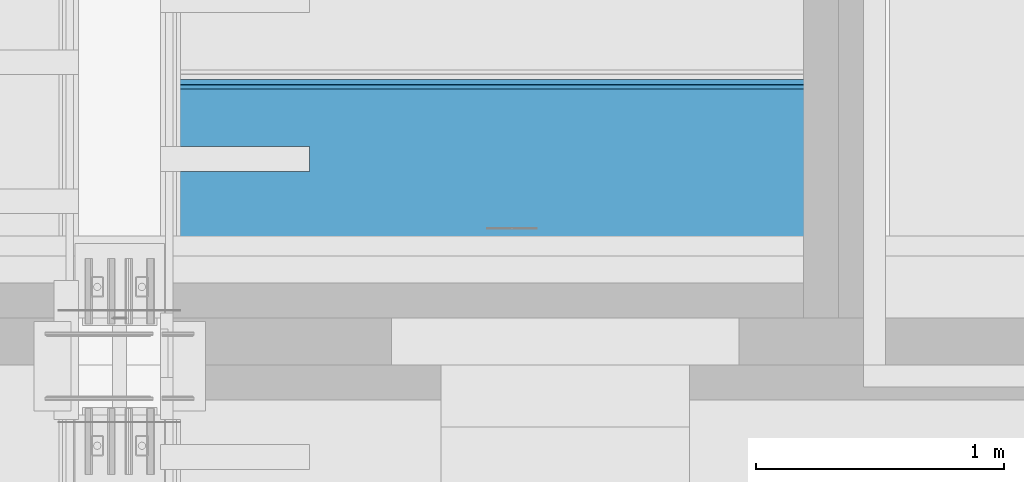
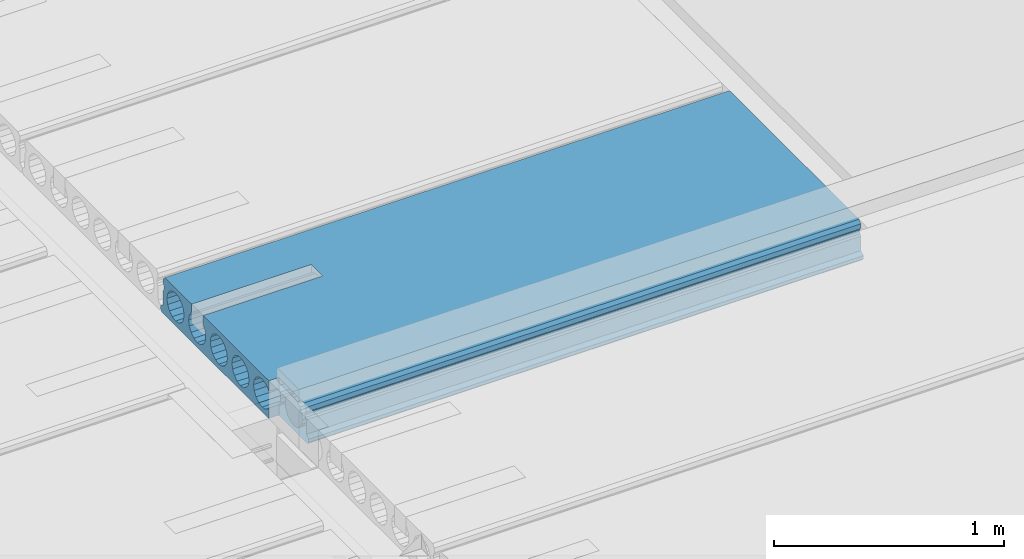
# One storey, part 128 of 230: 1 beam.
"""IFC4X3_ADD2 building model written with IfcOpenShell, lengths in millimetres."""

from ifc_helpers import new_model, si_unit, direction, origin_with_axes, place, context, subcontext, project, spatial, polygons, element, save


model = new_model("IFC4X3_ADD2")

# Units and contexts
model_context = context("Model", 3, precision=1e-05, world=origin_with_axes(), true_north=direction((0.0, 1.0)))
body_context = subcontext(model_context, "Body", "Model", "MODEL_VIEW")
ifc_project = project(units=[si_unit("LENGTHUNIT", "METRE", prefix="MILLI"), si_unit("AREAUNIT", "SQUARE_METRE"), si_unit("VOLUMEUNIT", "CUBIC_METRE"), si_unit("PLANEANGLEUNIT", "RADIAN"), si_unit("TIMEUNIT", "SECOND"), si_unit("MASSUNIT", "GRAM")], contexts=[model_context])

# Site, building, storey
site_placement = place(None, origin_with_axes())
site = spatial("IfcSite", under=ifc_project, at=site_placement, Name="Site", CompositionType="ELEMENT")
building_placement = place(site_placement, origin_with_axes())
building = spatial("IfcBuilding", under=site, at=building_placement, Name="IFC Building Story")
storey_placement = place(building_placement, origin_with_axes())
storey = spatial("IfcBuildingStorey", under=building, at=storey_placement, Name="ETAGE 00 (0)", Elevation=0.0)

# Beam
beam_placement = place(storey_placement, origin_with_axes())
element("IfcBeam", 1, at=beam_placement, inside=storey, Name="HOLLOWCORE SLAB", ObjectType="EB_SP200", context=body_context, shape_type="Tessellation", body=[
    polygons([(40131.189, 18590.0, 4199.9999909), (40131.189, 18590.0, 4153.133443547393), (40131.189, 18589.3205448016, 4152.679446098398), (40131.189, 18573.17097482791, 4128.509906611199), (40131.189, 18567.5, 4099.9999909), (40131.189, 18573.17097482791, 4071.490075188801), (40131.189, 18589.32054480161, 4047.320535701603), (40131.189, 18613.4900842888, 4031.17096572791), (40131.189, 18642.0, 4025.499990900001), (40131.189, 18670.5099157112, 4031.17096572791), (40131.189, 18694.6794551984, 4047.320535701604), (40131.189, 18710.82902517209, 4071.490075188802), (40131.189, 18716.5, 4099.9999909), (40131.189, 18710.82902517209, 4128.5099066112), (40131.189, 18694.6794551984, 4152.679446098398), (40131.189, 18690.0, 4155.806158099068), (40131.189, 18690.0, 4199.9999909), (40131.189, 18922.0, 4199.9999909), (40131.189, 18937.28870383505, 4185.002769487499), (40131.189, 18937.77001953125, 4159.9999909), (40131.189, 18930.58136358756, 4151.036789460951), (40131.189, 18928.16006998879, 4139.805000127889), (40131.189, 18931.01737852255, 4128.676139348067), (40131.189, 18938.54998779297, 4119.9999909), (40131.189, 18940.0, 4044.999990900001), (40131.189, 18960.0, 4029.9999909), (40131.189, 18960.0, 4012.9999909), (40131.189, 18949.0, 3999.9999909), (40131.189, 18020.0, 3999.9999909), (40131.189, 18020.0, 4055.283293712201), (40131.189, 18025.32054480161, 4047.320535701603), (40131.189, 18049.4900842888, 4031.17096572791), (40131.189, 18078.0, 4025.499990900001), (40131.189, 18106.5099157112, 4031.17096572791), (40131.189, 18130.6794551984, 4047.320535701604), (40131.189, 18146.82902517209, 4071.490075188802), (40131.189, 18152.5, 4099.9999909), (40131.189, 18146.82902517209, 4128.5099066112), (40131.189, 18130.6794551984, 4152.679446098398), (40131.189, 18106.5099157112, 4168.829016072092), (40131.189, 18078.0, 4174.4999909), (40131.189, 18049.4900842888, 4168.829016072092), (40131.189, 18025.32054480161, 4152.679446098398), (40131.189, 18020.0, 4144.7166880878), (40131.189, 18020.0, 4199.9999909), (40131.189, 18882.6794551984, 4152.679446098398), (40131.189, 18858.5099157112, 4168.829016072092), (40131.189, 18830.0, 4174.4999909), (40131.189, 18801.4900842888, 4168.829016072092), (40131.189, 18777.3205448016, 4152.679446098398), (40131.189, 18761.17097482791, 4128.509906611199), (40131.189, 18755.5, 4099.9999909), (40131.189, 18761.17097482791, 4071.490075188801), (40131.189, 18777.3205448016, 4047.320535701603), (40131.189, 18801.4900842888, 4031.17096572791), (40131.189, 18830.0, 4025.499990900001), (40131.189, 18858.5099157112, 4031.17096572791), (40131.189, 18882.6794551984, 4047.320535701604), (40131.189, 18898.82902517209, 4071.490075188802), (40131.189, 18904.5, 4099.9999909), (40131.189, 18898.82902517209, 4128.5099066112), (40131.189, 18506.6794551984, 4152.679446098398), (40131.189, 18482.5099157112, 4168.829016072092), (40131.189, 18454.0, 4174.4999909), (40131.189, 18425.4900842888, 4168.829016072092), (40131.189, 18401.32054480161, 4152.679446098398), (40131.189, 18385.17097482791, 4128.509906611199), (40131.189, 18379.5, 4099.9999909), (40131.189, 18385.17097482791, 4071.490075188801), (40131.189, 18401.32054480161, 4047.320535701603), (40131.189, 18425.4900842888, 4031.17096572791), (40131.189, 18454.0, 4025.499990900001), (40131.189, 18482.5099157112, 4031.17096572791), (40131.189, 18506.6794551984, 4047.320535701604), (40131.189, 18522.82902517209, 4071.490075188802), (40131.189, 18528.5, 4099.9999909), (40131.189, 18522.82902517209, 4128.5099066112), (40131.189, 18318.6794551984, 4152.679446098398), (40131.189, 18294.5099157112, 4168.829016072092), (40131.189, 18266.0, 4174.4999909), (40131.189, 18237.4900842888, 4168.829016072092), (40131.189, 18213.32054480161, 4152.679446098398), (40131.189, 18197.17097482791, 4128.509906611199), (40131.189, 18191.5, 4099.9999909), (40131.189, 18197.17097482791, 4071.490075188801), (40131.189, 18213.32054480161, 4047.320535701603), (40131.189, 18237.4900842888, 4031.17096572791), (40131.189, 18266.0, 4025.499990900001), (40131.189, 18294.5099157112, 4031.17096572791), (40131.189, 18318.6794551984, 4047.320535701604), (40131.189, 18334.82902517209, 4071.490075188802), (40131.189, 18340.5, 4099.9999909), (40131.189, 18334.82902517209, 4128.5099066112), (42962.189, 18949.0, 3999.9999909), (42962.189, 18960.0, 4012.999990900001), (42962.189, 18960.0, 4029.9999909), (42962.189, 18940.0, 4044.999990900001), (42962.189, 18938.54998779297, 4119.9999909), (42962.189, 18931.01737852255, 4128.676139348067), (42962.189, 18928.16006998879, 4139.805000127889), (42962.189, 18930.58136358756, 4151.036789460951), (42962.189, 18937.77001953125, 4159.9999909), (42962.189, 18937.28870383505, 4185.002769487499), (42962.189, 18922.0, 4199.9999909), (42962.189, 17798.0, 4199.9999909), (42962.189, 17782.71129616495, 4185.002769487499), (42962.189, 17782.22998046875, 4159.9999909), (42962.189, 17789.41863641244, 4151.036789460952), (42962.189, 17791.83993001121, 4139.805000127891), (42962.189, 17788.98262147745, 4128.676139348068), (42962.189, 17781.45001220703, 4119.9999909), (42962.189, 17780.0, 4044.999990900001), (42962.189, 17760.0, 4029.9999909), (42962.189, 17760.0, 4012.999990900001), (42962.189, 17771.0, 3999.9999909), (42962.189, 18882.6794551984, 4152.679446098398), (42962.189, 18898.82902517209, 4128.509906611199), (42962.189, 18904.5, 4099.9999909), (42962.189, 18898.82902517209, 4071.490075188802), (42962.189, 18882.6794551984, 4047.320535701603), (42962.189, 18858.5099157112, 4031.17096572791), (42962.189, 18830.0, 4025.499990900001), (42962.189, 18801.4900842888, 4031.17096572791), (42962.189, 18777.3205448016, 4047.320535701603), (42962.189, 18761.17097482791, 4071.490075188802), (42962.189, 18755.5, 4099.9999909), (42962.189, 18761.17097482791, 4128.509906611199), (42962.189, 18777.3205448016, 4152.679446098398), (42962.189, 18801.4900842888, 4168.829016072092), (42962.189, 18830.0, 4174.4999909), (42962.189, 18858.5099157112, 4168.829016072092), (42962.189, 18694.6794551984, 4152.679446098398), (42962.189, 18710.82902517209, 4128.509906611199), (42962.189, 18716.5, 4099.9999909), (42962.189, 18710.82902517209, 4071.490075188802), (42962.189, 18694.6794551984, 4047.320535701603), (42962.189, 18670.5099157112, 4031.17096572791), (42962.189, 18642.0, 4025.499990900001), (42962.189, 18613.4900842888, 4031.17096572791), (42962.189, 18589.3205448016, 4047.320535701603), (42962.189, 18573.17097482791, 4071.490075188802), (42962.189, 18567.5, 4099.9999909), (42962.189, 18573.17097482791, 4128.509906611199), (42962.189, 18589.3205448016, 4152.679446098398), (42962.189, 18613.4900842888, 4168.829016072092), (42962.189, 18642.0, 4174.4999909), (42962.189, 18670.5099157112, 4168.829016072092), (42962.189, 18506.6794551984, 4152.679446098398), (42962.189, 18522.82902517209, 4128.509906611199), (42962.189, 18528.5, 4099.9999909), (42962.189, 18522.82902517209, 4071.490075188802), (42962.189, 18506.6794551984, 4047.320535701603), (42962.189, 18482.5099157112, 4031.17096572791), (42962.189, 18454.0, 4025.499990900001), (42962.189, 18425.4900842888, 4031.17096572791), (42962.189, 18401.32054480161, 4047.320535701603), (42962.189, 18385.17097482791, 4071.490075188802), (42962.189, 18379.5, 4099.9999909), (42962.189, 18385.17097482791, 4128.509906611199), (42962.189, 18401.32054480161, 4152.679446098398), (42962.189, 18425.4900842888, 4168.829016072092), (42962.189, 18454.0, 4174.4999909), (42962.189, 18482.5099157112, 4168.829016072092), (42962.189, 18318.6794551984, 4152.679446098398), (42962.189, 18334.82902517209, 4128.509906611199), (42962.189, 18340.5, 4099.9999909), (42962.189, 18334.82902517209, 4071.490075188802), (42962.189, 18318.6794551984, 4047.320535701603), (42962.189, 18294.5099157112, 4031.17096572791), (42962.189, 18266.0, 4025.499990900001), (42962.189, 18237.4900842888, 4031.17096572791), (42962.189, 18213.32054480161, 4047.320535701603), (42962.189, 18197.17097482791, 4071.490075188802), (42962.189, 18191.5, 4099.9999909), (42962.189, 18197.17097482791, 4128.509906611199), (42962.189, 18213.32054480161, 4152.679446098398), (42962.189, 18237.4900842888, 4168.829016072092), (42962.189, 18266.0, 4174.4999909), (42962.189, 18294.5099157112, 4168.829016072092), (42962.189, 18130.6794551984, 4152.679446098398), (42962.189, 18146.82902517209, 4128.509906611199), (42962.189, 18152.5, 4099.9999909), (42962.189, 18146.82902517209, 4071.490075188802), (42962.189, 18130.6794551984, 4047.320535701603), (42962.189, 18106.5099157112, 4031.17096572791), (42962.189, 18078.0, 4025.499990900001), (42962.189, 18049.4900842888, 4031.17096572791), (42962.189, 18025.32054480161, 4047.320535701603), (42962.189, 18009.17097482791, 4071.490075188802), (42962.189, 18003.5, 4099.9999909), (42962.189, 18009.17097482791, 4128.509906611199), (42962.189, 18025.32054480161, 4152.679446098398), (42962.189, 18049.4900842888, 4168.829016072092), (42962.189, 18078.0, 4174.4999909), (42962.189, 18106.5099157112, 4168.829016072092), (42962.189, 17942.6794551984, 4152.679446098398), (42962.189, 17958.82902517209, 4128.509906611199), (42962.189, 17964.5, 4099.9999909), (42962.189, 17958.82902517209, 4071.490075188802), (42962.189, 17942.6794551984, 4047.320535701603), (42962.189, 17918.5099157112, 4031.17096572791), (42962.189, 17890.0, 4025.499990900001), (42962.189, 17861.49008428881, 4031.17096572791), (42962.189, 17837.32054480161, 4047.320535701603), (42962.189, 17821.17097482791, 4071.490075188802), (42962.189, 17815.5, 4099.9999909), (42962.189, 17821.17097482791, 4128.509906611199), (42962.189, 17837.32054480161, 4152.679446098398), (42962.189, 17861.49008428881, 4168.829016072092), (42962.189, 17890.0, 4174.4999909), (42962.189, 17918.5099157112, 4168.829016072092), (40181.189, 17771.0, 3999.9999909), (40181.189, 18020.0, 3999.9999909), (40181.189, 17760.0, 4012.999990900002), (40181.189, 17760.0, 4029.9999909), (40181.189, 17780.0, 4044.999990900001), (40181.189, 17781.45001220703, 4119.9999909), (40181.189, 17788.98262147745, 4128.676139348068), (40181.189, 17791.83993001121, 4139.805000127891), (40181.189, 17789.41863641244, 4151.036789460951), (40181.189, 17782.22998046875, 4159.9999909), (40181.189, 17782.71129616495, 4185.002769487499), (40181.189, 17798.0, 4199.9999909), (40731.189, 18690.0, 4199.9999909), (40731.189, 18590.0, 4199.9999909), (40181.189, 18020.0, 4199.9999909), (40731.189, 18670.50991571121, 4168.82901607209), (40731.189, 18690.0, 4155.806158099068), (40731.189, 18642.0, 4174.4999909), (40731.189, 18613.4900842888, 4168.829016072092), (40731.189, 18590.0, 4153.133443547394), (40181.189, 18009.17097482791, 4128.509906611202), (40181.189, 18020.0, 4144.716688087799), (40181.189, 18003.5, 4099.9999909), (40181.189, 18009.17097482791, 4071.490075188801), (40181.189, 18020.0, 4055.283293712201), (40181.189, 17918.50991571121, 4168.829016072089), (40181.189, 17942.6794551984, 4152.679446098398), (40181.189, 17890.0, 4174.4999909), (40181.189, 17861.49008428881, 4168.829016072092), (40181.189, 17837.3205448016, 4152.679446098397), (40181.189, 17821.17097482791, 4128.509906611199), (40181.189, 17815.5, 4099.9999909), (40181.189, 17821.17097482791, 4071.4900751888), (40181.189, 17837.32054480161, 4047.320535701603), (40181.189, 17861.49008428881, 4031.170965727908), (40181.189, 17890.0, 4025.499990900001), (40181.189, 17918.5099157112, 4031.17096572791), (40181.189, 17942.67945519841, 4047.320535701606), (40181.189, 17958.82902517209, 4071.490075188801), (40181.189, 17964.5, 4099.9999909), (40181.189, 17958.82902517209, 4128.509906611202), (40731.189, 18590.0, 4199.9999969), (40731.189, 18690.0, 4199.9999969)], [[[77, 62, 1]], [[77, 1, 2]], [[4, 5, 76]], [[4, 76, 77]], [[77, 3, 4]], [[77, 2, 3]], [[6, 7, 75]], [[75, 76, 5]], [[75, 5, 6]], [[7, 74, 75]], [[15, 16, 17]], [[49, 50, 14]], [[49, 14, 15]], [[49, 15, 17]], [[17, 48, 49]], [[17, 18, 48]], [[18, 47, 48]], [[18, 46, 47]], [[51, 52, 13]], [[51, 13, 14]], [[14, 50, 51]], [[53, 54, 12]], [[12, 13, 52]], [[12, 52, 53]], [[21, 22, 61]], [[21, 61, 46]], [[46, 18, 19]], [[46, 19, 20]], [[46, 20, 21]], [[23, 24, 60]], [[23, 60, 61]], [[61, 22, 23]], [[24, 25, 59]], [[24, 59, 60]], [[25, 26, 27]], [[25, 27, 28]], [[28, 58, 59]], [[28, 59, 25]], [[28, 57, 58]], [[28, 56, 57]], [[28, 55, 56]], [[28, 11, 55]], [[11, 12, 54]], [[11, 54, 55]], [[28, 10, 11]], [[28, 9, 10]], [[28, 73, 9]], [[73, 8, 9]], [[73, 74, 7]], [[73, 7, 8]], [[28, 72, 73]], [[28, 29, 72]], [[29, 71, 72]], [[43, 44, 45]], [[45, 42, 43]], [[45, 41, 42]], [[45, 40, 41]], [[40, 45, 81]], [[40, 81, 82]], [[82, 39, 40]], [[45, 80, 81]], [[80, 45, 1]], [[1, 79, 80]], [[1, 78, 79]], [[82, 38, 39]], [[83, 84, 37]], [[83, 37, 38]], [[38, 82, 83]], [[84, 85, 36]], [[84, 36, 37]], [[85, 35, 36]], [[85, 34, 35]], [[89, 90, 70]], [[89, 70, 71]], [[71, 88, 89]], [[88, 71, 29]], [[29, 87, 88]], [[29, 86, 87]], [[34, 85, 86]], [[86, 29, 34]], [[29, 33, 34]], [[29, 32, 33]], [[29, 31, 32]], [[29, 30, 31]], [[90, 69, 70]], [[91, 92, 68]], [[91, 68, 69]], [[69, 90, 91]], [[93, 78, 67]], [[67, 68, 92]], [[67, 92, 93]], [[78, 66, 67]], [[78, 65, 66]], [[78, 64, 65]], [[64, 78, 1]], [[1, 63, 64]], [[1, 62, 63]], [[147, 132, 104]], [[104, 146, 147]], [[104, 163, 146]], [[163, 145, 146]], [[163, 148, 144]], [[163, 144, 145]], [[104, 162, 163]], [[104, 179, 162]], [[179, 161, 162]], [[179, 164, 160]], [[179, 160, 161]], [[104, 178, 179]], [[104, 195, 178]], [[195, 177, 178]], [[195, 180, 176]], [[195, 176, 177]], [[104, 194, 195]], [[104, 105, 194]], [[105, 193, 194]], [[112, 113, 114]], [[112, 114, 115]], [[101, 102, 103]], [[101, 103, 104]], [[101, 104, 116]], [[116, 117, 100]], [[116, 100, 101]], [[117, 99, 100]], [[119, 120, 97]], [[97, 98, 118]], [[97, 118, 119]], [[98, 99, 117]], [[98, 117, 118]], [[131, 116, 104]], [[104, 130, 131]], [[104, 129, 130]], [[104, 132, 129]], [[132, 128, 129]], [[132, 127, 128]], [[133, 134, 126]], [[133, 126, 127]], [[127, 132, 133]], [[135, 136, 125]], [[125, 126, 134]], [[125, 134, 135]], [[136, 137, 124]], [[136, 124, 125]], [[137, 123, 124]], [[143, 144, 148]], [[149, 150, 142]], [[149, 142, 143]], [[143, 148, 149]], [[151, 152, 141]], [[141, 142, 150]], [[141, 150, 151]], [[152, 140, 141]], [[159, 160, 164]], [[165, 166, 158]], [[165, 158, 159]], [[159, 164, 165]], [[167, 168, 157]], [[157, 158, 166]], [[157, 166, 167]], [[168, 156, 157]], [[175, 176, 180]], [[181, 182, 174]], [[181, 174, 175]], [[175, 180, 181]], [[183, 184, 173]], [[173, 174, 182]], [[173, 182, 183]], [[184, 172, 173]], [[191, 192, 196]], [[197, 198, 190]], [[197, 190, 191]], [[191, 196, 197]], [[199, 200, 189]], [[189, 190, 198]], [[189, 198, 199]], [[206, 207, 110]], [[206, 110, 111]], [[111, 112, 205]], [[111, 205, 206]], [[112, 115, 204]], [[112, 204, 205]], [[115, 203, 204]], [[115, 202, 203]], [[115, 201, 202]], [[115, 188, 201]], [[188, 189, 200]], [[188, 200, 201]], [[115, 187, 188]], [[115, 186, 187]], [[115, 171, 186]], [[171, 185, 186]], [[171, 172, 184]], [[171, 184, 185]], [[115, 170, 171]], [[115, 155, 170]], [[155, 169, 170]], [[155, 156, 168]], [[155, 168, 169]], [[115, 154, 155]], [[115, 139, 154]], [[139, 153, 154]], [[139, 140, 152]], [[139, 152, 153]], [[115, 138, 139]], [[115, 122, 138]], [[122, 123, 137]], [[122, 137, 138]], [[115, 94, 122]], [[94, 121, 122]], [[94, 97, 120]], [[94, 120, 121]], [[94, 95, 96]], [[94, 96, 97]], [[207, 109, 110]], [[211, 196, 192]], [[211, 192, 193]], [[193, 210, 211]], [[193, 105, 210]], [[105, 209, 210]], [[105, 108, 208]], [[105, 208, 209]], [[108, 109, 207]], [[108, 207, 208]], [[105, 106, 107]], [[105, 107, 108]], [[213, 29, 28]], [[213, 28, 94]], [[213, 94, 115]], [[115, 212, 213]], [[115, 114, 214, 212]], [[114, 113, 215, 214]], [[113, 112, 216, 215]], [[112, 111, 217, 216]], [[111, 110, 218, 217]], [[110, 109, 219, 218]], [[109, 108, 220, 219]], [[108, 107, 221, 220]], [[107, 106, 222, 221]], [[106, 105, 223, 222]], [[226, 223, 225]], [[225, 1, 226]], [[1, 45, 226]], [[223, 105, 104]], [[223, 104, 225]], [[104, 224, 225]], [[104, 18, 224]], [[18, 17, 224]], [[19, 18, 104, 103]], [[20, 19, 103, 102]], [[21, 20, 102, 101]], [[22, 21, 101, 100]], [[23, 22, 100, 99]], [[24, 23, 99, 98]], [[25, 24, 98, 97]], [[26, 25, 97, 96]], [[27, 26, 96, 95]], [[28, 27, 95, 94]], [[47, 46, 116, 131]], [[48, 47, 131, 130]], [[49, 48, 130, 129]], [[50, 49, 129, 128]], [[51, 50, 128, 127]], [[52, 51, 127, 126]], [[53, 52, 126, 125]], [[54, 53, 125, 124]], [[55, 54, 124, 123]], [[56, 55, 123, 122]], [[57, 56, 122, 121]], [[58, 57, 121, 120]], [[59, 58, 120, 119]], [[60, 59, 119, 118]], [[61, 60, 118, 117]], [[46, 61, 117, 116]], [[228, 16, 15]], [[228, 15, 132]], [[132, 147, 227]], [[132, 227, 228]], [[147, 146, 229, 227]], [[146, 145, 230, 229]], [[231, 230, 145]], [[231, 145, 144]], [[144, 3, 231]], [[3, 2, 231]], [[4, 3, 144, 143]], [[5, 4, 143, 142]], [[6, 5, 142, 141]], [[7, 6, 141, 140]], [[8, 7, 140, 139]], [[9, 8, 139, 138]], [[10, 9, 138, 137]], [[11, 10, 137, 136]], [[12, 11, 136, 135]], [[13, 12, 135, 134]], [[14, 13, 134, 133]], [[15, 14, 133, 132]], [[63, 62, 148, 163]], [[64, 63, 163, 162]], [[65, 64, 162, 161]], [[66, 65, 161, 160]], [[67, 66, 160, 159]], [[68, 67, 159, 158]], [[69, 68, 158, 157]], [[70, 69, 157, 156]], [[71, 70, 156, 155]], [[72, 71, 155, 154]], [[73, 72, 154, 153]], [[74, 73, 153, 152]], [[75, 74, 152, 151]], [[76, 75, 151, 150]], [[77, 76, 150, 149]], [[62, 77, 149, 148]], [[79, 78, 164, 179]], [[80, 79, 179, 178]], [[81, 80, 178, 177]], [[82, 81, 177, 176]], [[83, 82, 176, 175]], [[84, 83, 175, 174]], [[85, 84, 174, 173]], [[86, 85, 173, 172]], [[87, 86, 172, 171]], [[88, 87, 171, 170]], [[89, 88, 170, 169]], [[90, 89, 169, 168]], [[91, 90, 168, 167]], [[92, 91, 167, 166]], [[93, 92, 166, 165]], [[78, 93, 165, 164]], [[40, 39, 180, 195]], [[41, 40, 195, 194]], [[42, 41, 194, 193]], [[43, 42, 193, 192]], [[233, 44, 43]], [[233, 43, 192]], [[192, 191, 232]], [[192, 232, 233]], [[191, 190, 234, 232]], [[190, 189, 235, 234]], [[236, 235, 189]], [[236, 189, 188]], [[188, 31, 236]], [[31, 30, 236]], [[32, 31, 188, 187]], [[33, 32, 187, 186]], [[34, 33, 186, 185]], [[35, 34, 185, 184]], [[36, 35, 184, 183]], [[37, 36, 183, 182]], [[38, 37, 182, 181]], [[39, 38, 181, 180]], [[196, 211, 237, 238]], [[211, 210, 239, 237]], [[210, 209, 240, 239]], [[209, 208, 241, 240]], [[208, 207, 242, 241]], [[207, 206, 243, 242]], [[206, 205, 244, 243]], [[205, 204, 245, 244]], [[204, 203, 246, 245]], [[203, 202, 247, 246]], [[202, 201, 248, 247]], [[201, 200, 249, 248]], [[200, 199, 250, 249]], [[199, 198, 251, 250]], [[198, 197, 252, 251]], [[197, 196, 238, 252]], [[17, 16, 228, 224]], [[2, 1, 253, 231]], [[230, 231, 225]], [[225, 254, 229]], [[225, 229, 230]], [[254, 227, 229]], [[254, 228, 227]], [[213, 236, 30, 29]], [[238, 237, 239]], [[238, 239, 240]], [[238, 240, 241]], [[238, 241, 242]], [[238, 242, 243]], [[238, 243, 244]], [[238, 244, 245]], [[238, 245, 246]], [[238, 246, 247]], [[238, 247, 248]], [[238, 248, 249]], [[238, 249, 250]], [[238, 250, 251]], [[238, 251, 252]], [[233, 226, 45, 44]]]),
])

save(model, "model.ifc")
